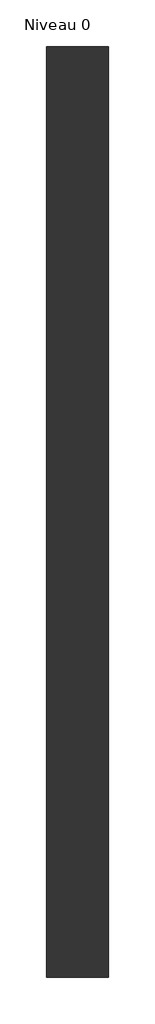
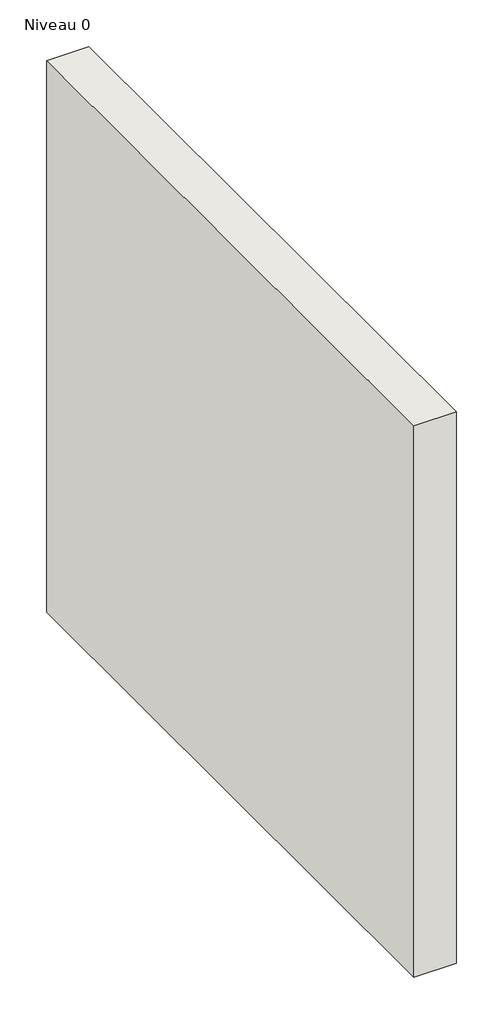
# One storey: 1 wall.
"""IFC4 building model written with IfcOpenShell, lengths in millimetres."""

from ifc_helpers import new_model, si_unit, origin, origin_with_axes, place, context, project, spatial, polyline, outline, extrude, element, save

model = new_model("IFC4")

# Units and contexts
model_context = context("Model", 3, world=origin())
ifc_project = project(units=[si_unit("LENGTHUNIT", "METRE", prefix="MILLI")], contexts=[model_context])

# Site, building, storey
site = spatial("IfcSite", under=ifc_project)
building = spatial("IfcBuilding", under=site)
storey = spatial("IfcBuildingStorey", under=building, Name="Niveau 0", Elevation=0.0)

# Wall
placement = place(None, origin())
element("IfcWall", 1, ObjectType="Générique - Ext. 200 mm", at=placement, inside=storey, context=model_context, shape_type="SweptSolid", body=[
    extrude(outline(polyline([(-8252.5371108, 3386.7327294), (-8252.5371108, 386.7327294), (-8452.5371108, 386.7327294), (-8452.5371108, 3386.7327294), (-8252.5371108, 3386.7327294)])), origin_with_axes(), (0.0, 0.0, 1.0), 2750.0),
])

save(model, "model.ifc")
